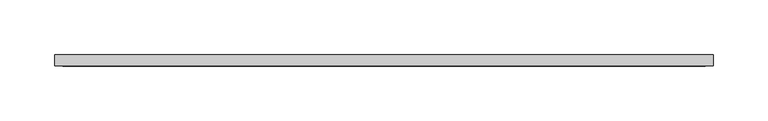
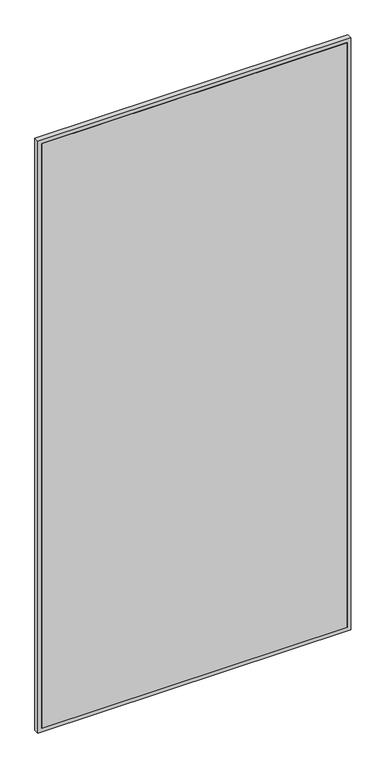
"""IFC4 building model written with IfcOpenShell, lengths in millimetres: furniture geometry, V01 Espejo : V1.2 Espejo 60x120."""

import ifcopenshell
import ifcopenshell.guid

model = None  # the IFC model being written
_history = None  # IfcOwnerHistory: only IFC2X3 demands one
_inside = {}  # id of a spatial element -> (the spatial element, [elements in it])
_under = {}  # id of a project, library or spatial element -> (it, [spatial elements below it])
_declared = {}  # id of a project -> (the project, [libraries it declares])
_typed = {}  # id of a type object -> (the type object, [elements of that type])
_made_of = {}  # id of a material, layer set ... -> (it, [elements and type objects made of it])


def new_model(schema):
    """Start an empty IFC model of exactly this schema.

    Asked for "IFC4X3", IfcOpenShell would pick the latest addendum, in which some entities
    have other attributes; the version numbers below select the first issue.
    IFC2X3 requires an IfcOwnerHistory on every rooted entity: one is made here for all.
    """
    global model, _history
    if schema == "IFC4X3":
        model = ifcopenshell.file(schema_version=(4, 3, 0, 0))
    else:
        model = ifcopenshell.file(schema=schema)
    _inside.clear()
    _under.clear()
    _declared.clear()
    _typed.clear()
    _made_of.clear()
    _history = None
    if model.schema == "IFC2X3":
        org = make("IfcOrganization", Name="unknown")
        user = make(
            "IfcPersonAndOrganization",
            ThePerson=make("IfcPerson", FamilyName="unknown"),
            TheOrganization=org,
        )
        app = make(
            "IfcApplication",
            ApplicationDeveloper=org,
            Version="unknown",
            ApplicationFullName="unknown",
            ApplicationIdentifier="unknown",
        )
        _history = make(
            "IfcOwnerHistory",
            OwningUser=user,
            OwningApplication=app,
            ChangeAction="ADDED",
            CreationDate=0,
        )
    return model


def make(cls, **values):
    """One entity of the class cls with the attributes given. An attribute that is None is left unset."""
    return model.create_entity(
        cls, **{name: value for name, value in values.items() if value is not None}
    )


def rooted(cls, **values):
    """An entity with a GlobalId (a new one), such as an element, a storey or a relation."""
    return make(cls, GlobalId=ifcopenshell.guid.new(), OwnerHistory=_history, **values)


def si_unit(unit_type, name, prefix=None):
    """IfcSIUnit, for example si_unit("LENGTHUNIT", "METRE", prefix="MILLI")."""
    return make("IfcSIUnit", UnitType=unit_type, Prefix=prefix, Name=name)


def assignment(units):
    """IfcUnitAssignment: the units of a project."""
    return None if units is None else make("IfcUnitAssignment", Units=units)


def point(xyz):
    """IfcCartesianPoint."""
    return None if xyz is None else make("IfcCartesianPoint", Coordinates=xyz)


def direction(xyz):
    """IfcDirection."""
    return None if xyz is None else make("IfcDirection", DirectionRatios=xyz)


def frame(location, z_axis=None, x_axis=None):
    """IfcAxis2Placement3D, a coordinate frame: its origin and axes. An axis left out is left unset."""
    return make(
        "IfcAxis2Placement3D",
        Location=point(location),
        Axis=direction(z_axis),
        RefDirection=direction(x_axis),
    )


def origin():
    """The frame at (0, 0, 0) with its axes left unset."""
    return frame((0.0, 0.0, 0.0))


def place(relative_to, where):
    """IfcLocalPlacement: puts the frame where relative to a parent placement (None: the world)."""
    return make(
        "IfcLocalPlacement", PlacementRelTo=relative_to, RelativePlacement=where
    )


def context(
    kind, dimensions, precision=None, world=None, true_north=None, identifier=None
):
    """IfcGeometricRepresentationContext, for example the 3D "Model" context."""
    return make(
        "IfcGeometricRepresentationContext",
        ContextIdentifier=identifier,
        ContextType=kind,
        CoordinateSpaceDimension=dimensions,
        Precision=precision,
        WorldCoordinateSystem=world,
        TrueNorth=true_north,
    )


def project(units=None, contexts=None):
    """IfcProject with its units and contexts."""
    return rooted(
        "IfcProject",
        Name="project",
        RepresentationContexts=contexts,
        UnitsInContext=assignment(units),
    )


def spatial(cls, under=None, at=None, **own):
    """A site, building, storey or space (cls), placed at a placement, below another one or the project."""
    s = rooted(cls, ObjectPlacement=at, **own)
    if under is not None:
        _under.setdefault(under.id(), (under, []))[1].append(s)
    return s


def polyline(points):
    """IfcPolyline through the points."""
    return make("IfcPolyline", Points=[point(p) for p in points])


def outline(outer, holes=None, kind="AREA"):
    """IfcArbitraryClosedProfileDef: a profile drawn as a closed curve; with holes, ...WithVoids."""
    if holes is None:
        return make("IfcArbitraryClosedProfileDef", ProfileType=kind, OuterCurve=outer)
    return make(
        "IfcArbitraryProfileDefWithVoids",
        ProfileType=kind,
        OuterCurve=outer,
        InnerCurves=holes,
    )


def extrude(swept, where, along, depth):
    """IfcExtrudedAreaSolid: the profile swept, set in the frame where, extruded along a direction by depth."""
    return make(
        "IfcExtrudedAreaSolid",
        SweptArea=swept,
        Position=where,
        ExtrudedDirection=direction(along),
        Depth=depth,
    )


def shape(context_of_items, identifier, shape_type, items):
    """IfcShapeRepresentation: the items that make up one representation, for example the "Body"."""
    return make(
        "IfcShapeRepresentation",
        ContextOfItems=context_of_items,
        RepresentationIdentifier=identifier,
        RepresentationType=shape_type,
        Items=items,
    )


def source(mapping_origin, context_of_items, identifier, shape_type, items):
    """IfcRepresentationMap: a shape defined once, which mapped items show again and again."""
    return make(
        "IfcRepresentationMap",
        MappingOrigin=mapping_origin,
        MappedRepresentation=shape(context_of_items, identifier, shape_type, items),
    )


def transform(
    local_origin,
    x_axis=None,
    y_axis=None,
    z_axis=None,
    scale=None,
    scale2=None,
    scale3=None,
    uniform=True,
):
    """IfcCartesianTransformationOperator3D, or its non-uniform kind. x_axis, y_axis, z_axis: its Axis1, 2, 3."""
    if uniform:
        return make(
            "IfcCartesianTransformationOperator3D",
            Axis1=direction(x_axis),
            Axis2=direction(y_axis),
            LocalOrigin=point(local_origin),
            Scale=scale,
            Axis3=direction(z_axis),
        )
    return make(
        "IfcCartesianTransformationOperator3DnonUniform",
        Axis1=direction(x_axis),
        Axis2=direction(y_axis),
        LocalOrigin=point(local_origin),
        Scale=scale,
        Axis3=direction(z_axis),
        Scale2=scale2,
        Scale3=scale3,
    )


def mapped(mapping_source, mapping_target):
    """IfcMappedItem: shows the shape of a source again, moved by a transform."""
    return make(
        "IfcMappedItem", MappingSource=mapping_source, MappingTarget=mapping_target
    )


def made_of(thing, what):
    """Note that an element or type object is made of a material, layer set ...; save() writes the relation."""
    if what is not None:
        _made_of.setdefault(what.id(), (what, []))[1].append(thing)
    return thing


def element(
    cls,
    number,
    at=None,
    inside=None,
    cuts=None,
    type_object=None,
    material=None,
    context=None,
    identifier="Body",
    shape_type=None,
    held_by="IfcProductDefinitionShape",
    body=None,
    shapes=None,
    **own,
):
    """One element of the class cls, such as IfcWall. Its Tag is "e" and its number.

    at: its placement. inside: the storey or other place that contains it. cuts: it is an
    opening in that element (IfcRelVoidsElement). A single representation is given by context,
    identifier, shape_type and body (its items); several are given by shapes. held_by: the class
    of the entity that holds the representations. save() writes the other relations.
    """
    e = rooted(cls, Tag="e%d" % number, ObjectPlacement=at, **own)
    if body is not None:
        shapes = [shape(context, identifier, shape_type, body)]
    if shapes is not None:
        e.Representation = make(held_by, Representations=shapes)
    if inside is not None:
        _inside.setdefault(inside.id(), (inside, []))[1].append(e)
    if cuts is not None:
        rooted(
            "IfcRelVoidsElement", RelatingBuildingElement=cuts, RelatedOpeningElement=e
        )
    if type_object is not None:
        _typed.setdefault(type_object.id(), (type_object, []))[1].append(e)
    return made_of(e, material)


def aggregate(whole, parts):
    """IfcRelAggregates: a whole, such as a stair, and the parts it consists of."""
    return rooted("IfcRelAggregates", RelatingObject=whole, RelatedObjects=parts)


def save(model, path):
    """Write the relations noted so far, then the file.

    IfcRelAggregates (storeys below a building ...), IfcRelContainedInSpatialStructure (elements
    in a storey), IfcRelDefinesByType, IfcRelAssociatesMaterial and IfcRelDeclares: one each for
    every whole, place, type object, material and project.
    """
    for whole, parts in _under.values():
        aggregate(whole, parts)
    for where, things in _inside.values():
        rooted(
            "IfcRelContainedInSpatialStructure",
            RelatedElements=things,
            RelatingStructure=where,
        )
    for kind, things in _typed.values():
        rooted("IfcRelDefinesByType", RelatedObjects=things, RelatingType=kind)
    for what, things in _made_of.values():
        rooted("IfcRelAssociatesMaterial", RelatedObjects=things, RelatingMaterial=what)
    for by, libraries in _declared.values():
        rooted("IfcRelDeclares", RelatingContext=by, RelatedDefinitions=libraries)
    model.write(path)


def furniture_6718e464(model_context):
    return source(origin(), model_context, "Body", "SweptSolid", [
        extrude(outline(polyline([(337.7003264, -10.0), (-248.2996736, -10.0), (-248.2996736, 0.0), (337.7003264, 0.0), (337.7003264, -10.0)])), frame((0.0, 0.0, 7.0), z_axis=(0.0, 0.0, 1.0), x_axis=(1.0, 0.0, 0.0)), (0.0, 0.0, 1.0), 1186.0),
        extrude(outline(polyline([(1200.0, 344.7003264), (1200.0, -255.2996736), (0.0, -255.2996736), (0.0, 344.7003264), (1200.0, 344.7003264)]), holes=[polyline([(1193.0, 337.7003264), (7.0, 337.7003264), (7.0, -248.2996736), (1193.0, -248.2996736), (1193.0, 337.7003264)])]), frame((0.0, -10.0, 0.0), z_axis=(0.0, 1.0, 0.0), x_axis=(0.0, 0.0, 1.0)), (0.0, 0.0, 1.0), 10.0),
    ])


if __name__ == "__main__":
    model = new_model("IFC4")
    model_context = context("Model", 3, world=origin())
    ifc_project = project(units=[si_unit("LENGTHUNIT", "METRE", prefix="MILLI")], contexts=[model_context])
    site = spatial("IfcSite", under=ifc_project)
    building = spatial("IfcBuilding", under=site)
    placement = place(None, origin())
    furniture_shape = furniture_6718e464(model_context)
    element("IfcFurniture", 1, ObjectType="V01 Espejo : V1.2 Espejo 60x120", at=placement, inside=building, context=model_context, shape_type="MappedRepresentation", body=[
        mapped(furniture_shape, transform((0.0, 0.0, 0.0), x_axis=(1.0, 0.0, 0.0), y_axis=(0.0, 1.0, 0.0), z_axis=(0.0, 0.0, 1.0))),
    ])
    save(model, "model.ifc")
